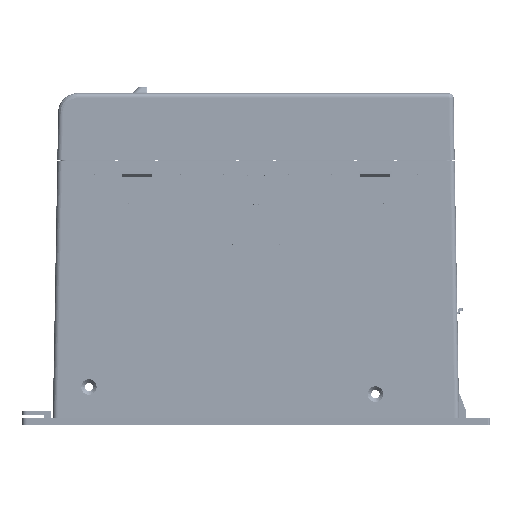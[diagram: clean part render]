
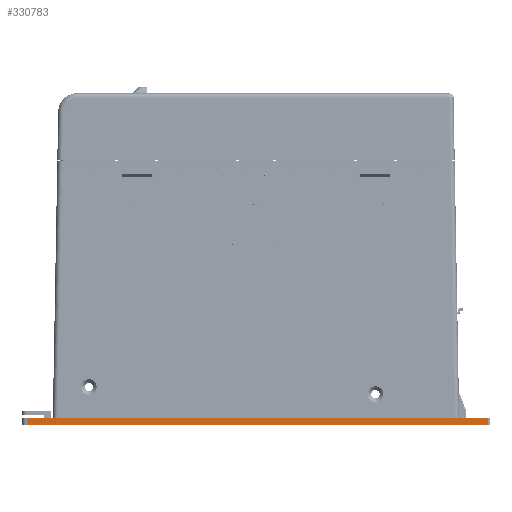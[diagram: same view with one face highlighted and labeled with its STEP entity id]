
A CAD part, left-side view. The second image highlights one B-rep face of the part: STEP entity #330783.
In plain terms, the highlighted planar face has unit normal (-1, 0, 0).
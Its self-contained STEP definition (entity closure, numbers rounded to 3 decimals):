
#74047=DIRECTION('',(0.,1.,0.));
#74048=VECTOR('',#74047,166.2);
#74049=CARTESIAN_POINT('',(-3.7,-9.1,-55.));
#74050=LINE('',#74049,#74048);
#74051=DIRECTION('',(0.,0.,-1.));
#74052=VECTOR('',#74051,3.);
#74053=CARTESIAN_POINT('',(-3.7,-23.,-55.));
#74054=LINE('',#74053,#74052);
#74055=DIRECTION('',(0.,1.,0.));
#74056=VECTOR('',#74055,193.);
#74057=CARTESIAN_POINT('',(-3.7,-23.,-58.));
#74058=LINE('',#74057,#74056);
#74059=DIRECTION('',(0.,0.,1.));
#74060=VECTOR('',#74059,3.);
#74061=CARTESIAN_POINT('',(-3.7,170.,-58.));
#74062=LINE('',#74061,#74060);
#74112=DIRECTION('',(0.,1.,0.));
#74113=VECTOR('',#74112,13.9);
#74114=CARTESIAN_POINT('',(-3.7,-23.,-55.));
#74115=LINE('',#74114,#74113);
#155549=DIRECTION('',(0.,1.,0.));
#155550=VECTOR('',#155549,12.9);
#155551=CARTESIAN_POINT('',(-3.7,157.1,-55.));
#155552=LINE('',#155551,#155550);
#199178=CARTESIAN_POINT('',(-3.7,170.,-55.));
#199180=VERTEX_POINT('',#199178);
#199181=CARTESIAN_POINT('',(-3.7,170.,-58.));
#199182=VERTEX_POINT('',#199181);
#199274=CARTESIAN_POINT('',(-3.7,-23.,-58.));
#199276=VERTEX_POINT('',#199274);
#199277=CARTESIAN_POINT('',(-3.7,-23.,-55.));
#199278=VERTEX_POINT('',#199277);
#215036=CARTESIAN_POINT('',(-3.7,-9.1,-55.));
#215037=CARTESIAN_POINT('',(-3.7,157.1,-55.));
#215038=VERTEX_POINT('',#215036);
#215039=VERTEX_POINT('',#215037);
#330765=CARTESIAN_POINT('',(-3.7,-24.,-58.));
#330766=DIRECTION('',(-1.,0.,0.));
#330767=DIRECTION('',(0.,0.,1.));
#330768=AXIS2_PLACEMENT_3D('',#330765,#330766,#330767);
#330769=PLANE('',#330768);
#330771=ORIENTED_EDGE('',*,*,#330770,.F.);
#330773=ORIENTED_EDGE('',*,*,#330772,.F.);
#330775=ORIENTED_EDGE('',*,*,#330774,.T.);
#330776=ORIENTED_EDGE('',*,*,#330658,.T.);
#330778=ORIENTED_EDGE('',*,*,#330777,.T.);
#330780=ORIENTED_EDGE('',*,*,#330779,.F.);
#330781=EDGE_LOOP('',(#330771,#330773,#330775,#330776,#330778,#330780));
#330782=FACE_OUTER_BOUND('',#330781,.F.);
#330658=EDGE_CURVE('',#199276,#199182,#74058,.T.);
#330770=EDGE_CURVE('',#215038,#215039,#74050,.T.);
#330772=EDGE_CURVE('',#199278,#215038,#74115,.T.);
#330774=EDGE_CURVE('',#199278,#199276,#74054,.T.);
#330777=EDGE_CURVE('',#199182,#199180,#74062,.T.);
#330779=EDGE_CURVE('',#215039,#199180,#155552,.T.);
#330783=ADVANCED_FACE('',(#330782),#330769,.T.);
